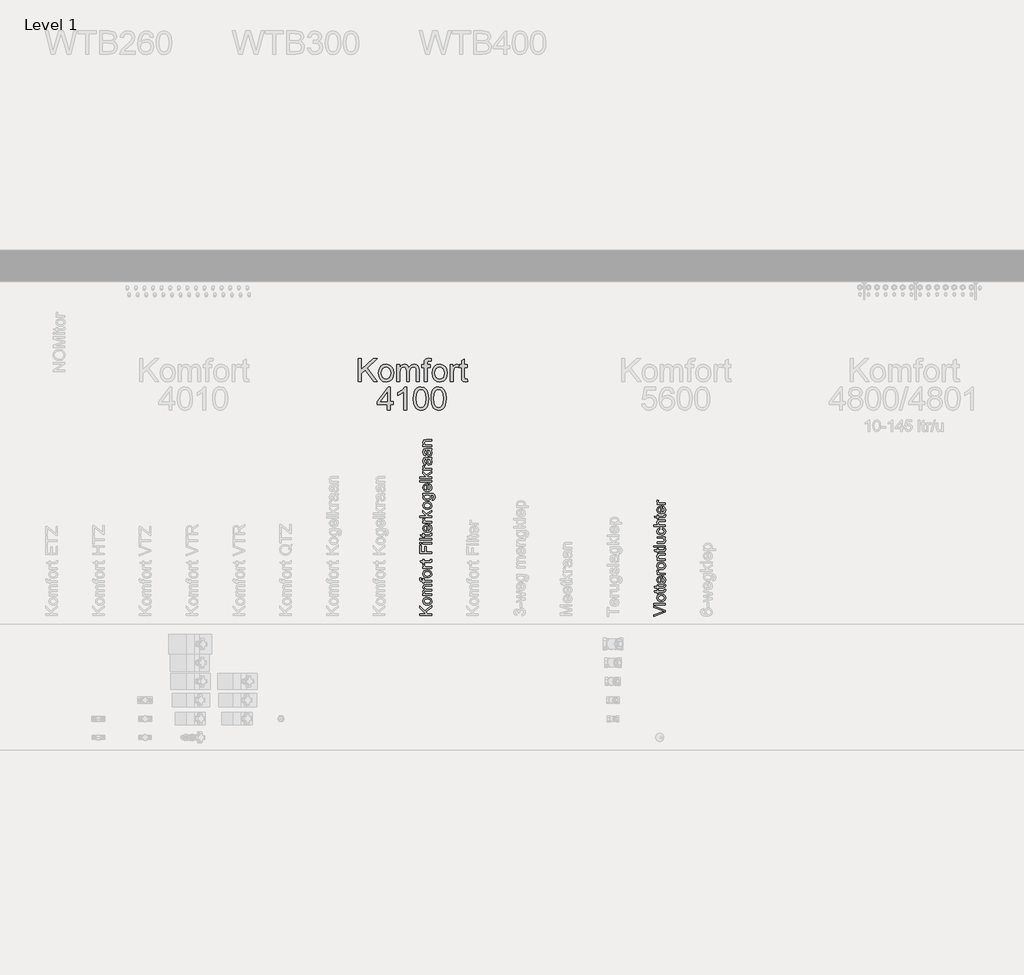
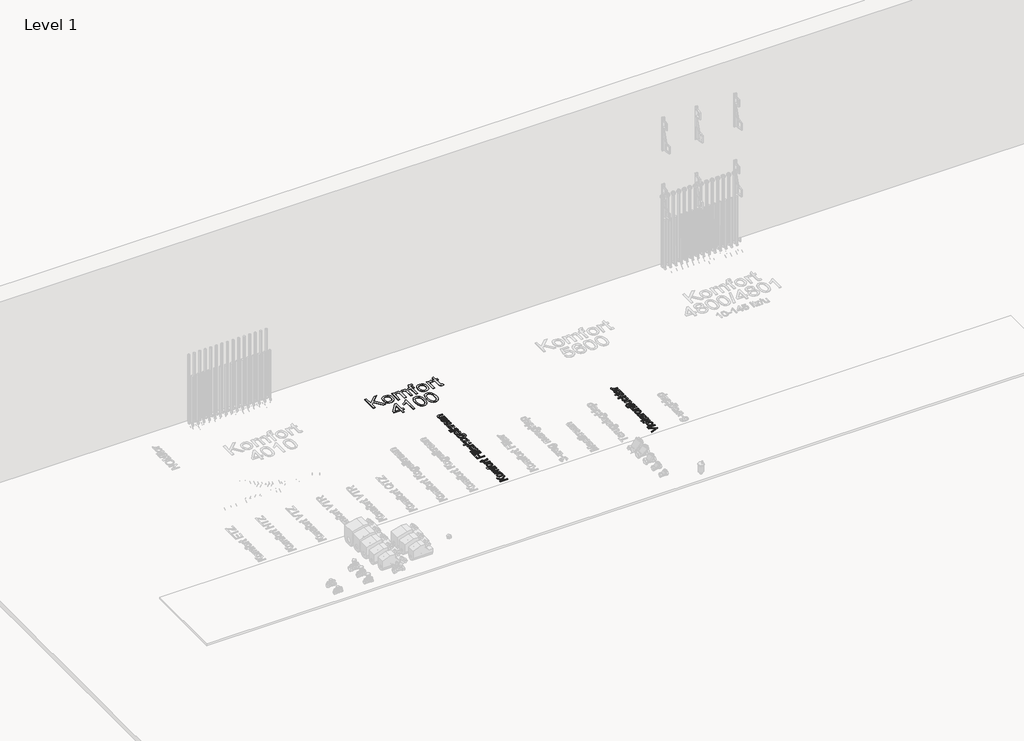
# One storey, part 21 of 34: 3 proxies.
"""IFC4 building model written with IfcOpenShell, lengths in millimetres."""

from ifc_helpers import new_model, si_unit, origin, origin_with_axes, place, context, project, spatial, polyline, outline, extrude, element, save

model = new_model("IFC4")

# Units and contexts
model_context = context("Model", 3, world=origin())
ifc_project = project(units=[si_unit("LENGTHUNIT", "METRE", prefix="MILLI")], contexts=[model_context])

# Site, building, storey
site = spatial("IfcSite", under=ifc_project)
building = spatial("IfcBuilding", under=site)
storey = spatial("IfcBuildingStorey", under=building, Name="Level 1", Elevation=0.0)

# Proxies
placement = place(None, origin())
element("IfcBuildingElementProxy", 1, Name="DN", ObjectType="DN", at=placement, inside=storey, context=model_context, shape_type="SweptSolid", body=[
    extrude(outline(polyline([(-11811.4250614, 5469.6338728), (-11885.2712152, 5440.2468536), (-11885.2712152, 5450.1266613), (-11832.0680902, 5469.7961324), (-11820.0789075, 5473.7805074), (-11832.0680902, 5477.7107959), (-11885.2712152, 5497.4343536), (-11885.2712152, 5507.3141613), (-11811.4250614, 5479.1711324), (-11811.4250614, 5469.6338728)])), origin_with_axes(), (0.0, 0.0, 1.0), 5.0),
    extrude(outline(polyline([(-11811.4250614, 5514.7420459), (-11885.2712152, 5514.7420459), (-11885.2712152, 5523.9728151), (-11811.4250614, 5523.9728151), (-11811.4250614, 5514.7420459)])), origin_with_axes(), (0.0, 0.0, 1.0), 5.0),
    extrude(outline(polyline([(-11838.540446, 5535.5112767), (-11851.6158667, 5537.5079714), (-11860.806071, 5543.4980555), (-11865.3087753, 5550.8988968), (-11866.8096768, 5559.7600747), (-11864.9820025, 5569.4573404), (-11859.4989796, 5577.2029834), (-11850.7933005, 5582.2803572), (-11839.2976575, 5583.9728151), (-11822.8733787, 5580.9800267), (-11813.5795085, 5572.2630795), (-11810.2712152, 5559.7600747), (-11812.0921287, 5549.9456216), (-11817.5548691, 5542.208993), (-11826.4430902, 5537.1857057), (-11838.540446, 5535.5112767)]), holes=[polyline([(-11838.5584748, 5544.7420459), (-11824.2525854, 5549.0148824), (-11819.5019844, 5559.7600747), (-11824.2796287, 5570.4692093), (-11838.8469364, 5574.7420459), (-11852.8283066, 5570.4421661), (-11857.5789075, 5559.7600747), (-11852.8463354, 5549.0148824), (-11838.5584748, 5544.7420459)])]), origin_with_axes(), (0.0, 0.0, 1.0), 5.0),
    extrude(outline(polyline([(-11819.1233787, 5613.9728151), (-11811.1546287, 5615.1266613), (-11810.2712152, 5608.2216132), (-11811.8036671, 5600.4872382), (-11815.8240998, 5596.6290651), (-11826.2988594, 5595.5112767), (-11856.4250614, 5595.5112767), (-11856.4250614, 5588.5881997), (-11865.6558306, 5588.5881997), (-11865.6558306, 5595.5112767), (-11878.8349171, 5595.5112767), (-11884.2615998, 5604.7420459), (-11865.6558306, 5604.7420459), (-11865.6558306, 5613.9728151), (-11856.4250614, 5613.9728151), (-11856.4250614, 5604.7420459), (-11826.5692921, 5604.7420459), (-11821.8096768, 5605.2288247), (-11820.1239796, 5606.8063488), (-11819.5019844, 5609.9523824), (-11819.1233787, 5613.9728151)])), origin_with_axes(), (0.0, 0.0, 1.0), 5.0),
    extrude(outline(polyline([(-11819.1233787, 5642.818969), (-11811.1546287, 5643.9728151), (-11810.2712152, 5637.067767), (-11811.8036671, 5629.333392), (-11815.8240998, 5625.475219), (-11826.2988594, 5624.3574305), (-11856.4250614, 5624.3574305), (-11856.4250614, 5617.4343536), (-11865.6558306, 5617.4343536), (-11865.6558306, 5624.3574305), (-11878.8349171, 5624.3574305), (-11884.2615998, 5633.5881997), (-11865.6558306, 5633.5881997), (-11865.6558306, 5642.818969), (-11856.4250614, 5642.818969), (-11856.4250614, 5633.5881997), (-11826.5692921, 5633.5881997), (-11821.8096768, 5634.0749786), (-11820.1239796, 5635.6525026), (-11819.5019844, 5638.7985363), (-11819.1233787, 5642.818969)])), origin_with_axes(), (0.0, 0.0, 1.0), 5.0),
    extrude(outline(polyline([(-11827.5789075, 5690.0184882), (-11826.4250614, 5699.068969), (-11814.5079941, 5690.6044257), (-11810.2712152, 5674.8381997), (-11812.0988895, 5664.0073704), (-11817.5819123, 5655.6735363), (-11826.364214, 5650.3595339), (-11838.0897248, 5648.5881997), (-11850.2096167, 5650.3775627), (-11859.2736191, 5655.7456517), (-11864.9256623, 5663.9668055), (-11866.8096768, 5674.3153632), (-11864.9301695, 5684.3416553), (-11859.2916479, 5692.3532238), (-11850.2456743, 5697.6063788), (-11838.1438114, 5699.3574305), (-11835.6558306, 5699.303344), (-11835.6558306, 5657.818969), (-11823.6666479, 5663.1284642), (-11819.5019844, 5675.0184882), (-11821.431071, 5684.068969), (-11827.5789075, 5690.0184882)]), holes=[polyline([(-11844.8865998, 5657.818969), (-11844.8865998, 5690.1266613), (-11853.2519844, 5686.4307478), (-11857.5789075, 5674.2793055), (-11854.1263835, 5662.912118), (-11844.8865998, 5657.818969)])]), origin_with_axes(), (0.0, 0.0, 1.0), 5.0),
    extrude(outline(polyline([(-11811.4250614, 5708.5881997), (-11865.6558306, 5708.5881997), (-11865.6558306, 5716.6651228), (-11857.6329941, 5716.6651228), (-11865.024821, 5722.3982959), (-11866.8096768, 5728.1675267), (-11863.9611191, 5737.4343536), (-11855.6858787, 5734.3514209), (-11857.5789075, 5727.8610363), (-11855.7579941, 5722.6416853), (-11850.7099171, 5719.3153632), (-11839.9286671, 5717.818969), (-11811.4250614, 5717.818969), (-11811.4250614, 5708.5881997)])), origin_with_axes(), (0.0, 0.0, 1.0), 5.0),
    extrude(outline(polyline([(-11838.540446, 5740.895892), (-11851.6158667, 5742.8925868), (-11860.806071, 5748.8826709), (-11865.3087753, 5756.2835122), (-11866.8096768, 5765.1446901), (-11864.9820025, 5774.8419557), (-11859.4989796, 5782.5875988), (-11850.7933005, 5787.6649726), (-11839.2976575, 5789.3574305), (-11822.8733787, 5786.364642), (-11813.5795085, 5777.6476949), (-11810.2712152, 5765.1446901), (-11812.0921287, 5755.330237), (-11817.5548691, 5747.5936084), (-11826.4430902, 5742.5703211), (-11838.540446, 5740.895892)]), holes=[polyline([(-11838.5584748, 5750.1266613), (-11824.2525854, 5754.3994978), (-11819.5019844, 5765.1446901), (-11824.2796287, 5775.8538247), (-11838.8469364, 5780.1266613), (-11852.8283066, 5775.8267815), (-11857.5789075, 5765.1446901), (-11852.8463354, 5754.3994978), (-11838.5584748, 5750.1266613)])]), origin_with_axes(), (0.0, 0.0, 1.0), 5.0),
    extrude(outline(polyline([(-11811.4250614, 5799.7420459), (-11865.6558306, 5799.7420459), (-11865.6558306, 5808.9728151), (-11858.0837152, 5808.9728151), (-11864.6281864, 5816.0311084), (-11866.8096768, 5825.6675267), (-11865.0518643, 5834.3844738), (-11860.4364796, 5840.333993), (-11853.6486191, 5843.1014209), (-11844.7243402, 5843.5881997), (-11811.4250614, 5843.5881997), (-11811.4250614, 5834.3574305), (-11843.4803498, 5834.3574305), (-11851.6474171, 5833.2937286), (-11855.9653258, 5829.5347142), (-11857.5789075, 5823.1975747), (-11853.9551094, 5813.1825507), (-11840.1990998, 5808.9728151), (-11811.4250614, 5808.9728151), (-11811.4250614, 5799.7420459)])), origin_with_axes(), (0.0, 0.0, 1.0), 5.0),
    extrude(outline(polyline([(-11819.1233787, 5875.895892), (-11811.1546287, 5877.0497382), (-11810.2712152, 5870.1446901), (-11811.8036671, 5862.4103151), (-11815.8240998, 5858.552142), (-11826.2988594, 5857.4343536), (-11856.4250614, 5857.4343536), (-11856.4250614, 5850.5112767), (-11865.6558306, 5850.5112767), (-11865.6558306, 5857.4343536), (-11878.8349171, 5857.4343536), (-11884.2615998, 5866.6651228), (-11865.6558306, 5866.6651228), (-11865.6558306, 5875.895892), (-11856.4250614, 5875.895892), (-11856.4250614, 5866.6651228), (-11826.5692921, 5866.6651228), (-11821.8096768, 5867.1519017), (-11820.1239796, 5868.7294257), (-11819.5019844, 5871.8754593), (-11819.1233787, 5875.895892)])), origin_with_axes(), (0.0, 0.0, 1.0), 5.0),
    extrude(outline(polyline([(-11811.4250614, 5885.1266613), (-11885.2712152, 5885.1266613), (-11885.2712152, 5894.3574305), (-11811.4250614, 5894.3574305), (-11811.4250614, 5885.1266613)])), origin_with_axes(), (0.0, 0.0, 1.0), 5.0),
    extrude(outline(polyline([(-11811.4250614, 5942.818969), (-11820.7459748, 5942.818969), (-11812.8899051, 5935.5894017), (-11810.2712152, 5926.1603151), (-11812.1101575, 5917.4794257), (-11816.7255421, 5911.4938488), (-11823.5224171, 5908.7444497), (-11832.1041479, 5908.2035843), (-11865.6558306, 5908.2035843), (-11865.6558306, 5917.4343536), (-11836.4490998, 5917.4343536), (-11827.0380421, 5917.9932478), (-11821.5122008, 5921.6440892), (-11819.5019844, 5928.522094), (-11821.5572729, 5936.2294257), (-11827.1552296, 5941.3225747), (-11837.4406864, 5942.818969), (-11865.6558306, 5942.818969), (-11865.6558306, 5952.0497382), (-11811.4250614, 5952.0497382), (-11811.4250614, 5942.818969)])), origin_with_axes(), (0.0, 0.0, 1.0), 5.0),
    extrude(outline(polyline([(-11831.040446, 5999.3574305), (-11829.8865998, 6008.5881997), (-11815.4725373, 6001.178344), (-11810.2712152, 5986.5389209), (-11812.0853679, 5976.7199605), (-11817.5278258, 5969.0419257), (-11826.3597068, 5964.0862466), (-11838.3421287, 5962.4343536), (-11853.6756623, 5965.255868), (-11863.5284268, 5973.8556276), (-11866.8096768, 5986.412719), (-11862.3024652, 6000.4481757), (-11849.5019844, 6007.4343536), (-11848.3481383, 5998.2035843), (-11855.2622008, 5993.9217334), (-11857.5789075, 5986.4848343), (-11853.0176094, 5975.7847142), (-11838.5945325, 5971.6651228), (-11824.0362393, 5975.6945699), (-11819.5019844, 5986.2324305), (-11822.3325133, 5994.9313488), (-11831.040446, 5999.3574305)])), origin_with_axes(), (0.0, 0.0, 1.0), 5.0),
    extrude(outline(polyline([(-11811.4250614, 6016.6651228), (-11885.2712152, 6016.6651228), (-11885.2712152, 6025.895892), (-11858.1197729, 6025.895892), (-11864.6372008, 6033.0939089), (-11866.8096768, 6041.959594), (-11864.4388835, 6052.3261805), (-11857.8853979, 6058.6182478), (-11845.7519844, 6060.5112767), (-11811.4250614, 6060.5112767), (-11811.4250614, 6051.2805074), (-11844.7964556, 6051.2805074), (-11854.5320325, 6048.3418055), (-11857.5789075, 6040.0124786), (-11855.5236191, 6032.4493776), (-11849.9527056, 6027.4013007), (-11840.2351575, 6025.895892), (-11811.4250614, 6025.895892), (-11811.4250614, 6016.6651228)])), origin_with_axes(), (0.0, 0.0, 1.0), 5.0),
    extrude(outline(polyline([(-11819.1233787, 6092.818969), (-11811.1546287, 6093.9728151), (-11810.2712152, 6087.067767), (-11811.8036671, 6079.333392), (-11815.8240998, 6075.475219), (-11826.2988594, 6074.3574305), (-11856.4250614, 6074.3574305), (-11856.4250614, 6067.4343536), (-11865.6558306, 6067.4343536), (-11865.6558306, 6074.3574305), (-11878.8349171, 6074.3574305), (-11884.2615998, 6083.5881997), (-11865.6558306, 6083.5881997), (-11865.6558306, 6092.818969), (-11856.4250614, 6092.818969), (-11856.4250614, 6083.5881997), (-11826.5692921, 6083.5881997), (-11821.8096768, 6084.0749786), (-11820.1239796, 6085.6525026), (-11819.5019844, 6088.7985363), (-11819.1233787, 6092.818969)])), origin_with_axes(), (0.0, 0.0, 1.0), 5.0),
    extrude(outline(polyline([(-11827.5789075, 6140.0184882), (-11826.4250614, 6149.068969), (-11814.5079941, 6140.6044257), (-11810.2712152, 6124.8381997), (-11812.0988895, 6114.0073704), (-11817.5819123, 6105.6735363), (-11826.364214, 6100.3595339), (-11838.0897248, 6098.5881997), (-11850.2096167, 6100.3775627), (-11859.2736191, 6105.7456517), (-11864.9256623, 6113.9668055), (-11866.8096768, 6124.3153632), (-11864.9301695, 6134.3416553), (-11859.2916479, 6142.3532238), (-11850.2456743, 6147.6063788), (-11838.1438114, 6149.3574305), (-11835.6558306, 6149.303344), (-11835.6558306, 6107.818969), (-11823.6666479, 6113.1284642), (-11819.5019844, 6125.0184882), (-11821.431071, 6134.068969), (-11827.5789075, 6140.0184882)]), holes=[polyline([(-11844.8865998, 6107.818969), (-11844.8865998, 6140.1266613), (-11853.2519844, 6136.4307478), (-11857.5789075, 6124.2793055), (-11854.1263835, 6112.912118), (-11844.8865998, 6107.818969)])]), origin_with_axes(), (0.0, 0.0, 1.0), 5.0),
    extrude(outline(polyline([(-11811.4250614, 6158.5881997), (-11865.6558306, 6158.5881997), (-11865.6558306, 6166.6651228), (-11857.6329941, 6166.6651228), (-11865.024821, 6172.3982959), (-11866.8096768, 6178.1675267), (-11863.9611191, 6187.4343536), (-11855.6858787, 6184.3514209), (-11857.5789075, 6177.8610363), (-11855.7579941, 6172.6416853), (-11850.7099171, 6169.3153632), (-11839.9286671, 6167.818969), (-11811.4250614, 6167.818969), (-11811.4250614, 6158.5881997)])), origin_with_axes(), (0.0, 0.0, 1.0), 5.0),
])
element("IfcBuildingElementProxy", 2, Name="DN", ObjectType="DN", at=placement, inside=storey, context=model_context, shape_type="SweptSolid", body=[
    extrude(outline(polyline([(-13311.4250614, 5447.9826026), (-13386.767294, 5447.9826026), (-13386.767294, 5457.4003817), (-13349.887124, 5457.4003817), (-13386.767294, 5496.0279911), (-13386.767294, 5509.1981666), (-13355.79163, 5476.7693687), (-13311.4250614, 5510.375389), (-13311.4250614, 5498.8606825), (-13349.4272715, 5470.0923105), (-13337.3239538, 5457.4003817), (-13311.4250614, 5457.4003817), (-13311.4250614, 5447.9826026)])), origin_with_axes(), (0.0, 0.0, 1.0), 5.0),
    extrude(outline(polyline([(-13339.0897874, 5513.9070561), (-13352.4301083, 5515.9442027), (-13361.8065006, 5522.0556423), (-13366.400427, 5529.6064203), (-13367.9317358, 5538.6471203), (-13366.067034, 5548.5408467), (-13360.4729284, 5556.4434118), (-13351.5908775, 5561.6236502), (-13339.8623396, 5563.3503963), (-13323.1053147, 5560.2969757), (-13313.6231563, 5551.4034285), (-13310.247839, 5538.6471203), (-13312.1056431, 5528.6338322), (-13317.6790553, 5520.7404642), (-13326.7473465, 5515.6154081), (-13339.0897874, 5513.9070561)]), holes=[polyline([(-13339.1081815, 5523.3248352), (-13324.5124633, 5527.6842368), (-13319.6656181, 5538.6471203), (-13324.5400545, 5549.5732155), (-13339.4024871, 5553.9326172), (-13353.6671115, 5549.5456244), (-13358.5139567, 5538.6471203), (-13353.6855056, 5527.6842368), (-13339.1081815, 5523.3248352)])]), origin_with_axes(), (0.0, 0.0, 1.0), 5.0),
    extrude(outline(polyline([(-13311.4250614, 5573.9453977), (-13366.7545134, 5573.9453977), (-13366.7545134, 5583.3631768), (-13357.6494341, 5583.3631768), (-13365.1082415, 5589.8378999), (-13367.9317358, 5599.0533439), (-13365.0530592, 5608.4895171), (-13356.9872465, 5613.6766532), (-13365.1956135, 5621.0250961), (-13367.9317358, 5630.3049194), (-13363.3791961, 5642.6197692), (-13349.3536951, 5646.9331856), (-13311.4250614, 5646.9331856), (-13311.4250614, 5637.5154065), (-13345.3069931, 5637.5154065), (-13353.1704708, 5636.6416868), (-13357.0424288, 5633.4779016), (-13358.5139567, 5628.0976274), (-13354.7431663, 5618.8361982), (-13342.6582428, 5615.1481812), (-13311.4250614, 5615.1481812), (-13311.4250614, 5605.7304021), (-13346.3554568, 5605.7304021), (-13355.4789303, 5603.5507013), (-13358.5139567, 5596.4045935), (-13356.4906058, 5589.4332297), (-13350.5677057, 5584.7979166), (-13339.3289107, 5583.3631768), (-13311.4250614, 5583.3631768), (-13311.4250614, 5573.9453977)])), origin_with_axes(), (0.0, 0.0, 1.0), 5.0),
    extrude(outline(polyline([(-13311.4250614, 5663.414299), (-13357.3367344, 5663.414299), (-13357.3367344, 5655.1737423), (-13366.7545134, 5655.1737423), (-13366.7545134, 5663.414299), (-13372.3279257, 5663.414299), (-13380.1822063, 5664.4075803), (-13385.7924067, 5669.2268345), (-13387.9445164, 5678.71819), (-13386.9144468, 5687.3082345), (-13378.0852789, 5685.9286771), (-13378.5267373, 5680.5024176), (-13376.9632388, 5674.5703205), (-13371.1323092, 5672.832078), (-13366.7545134, 5672.832078), (-13366.7545134, 5683.4270795), (-13357.3367344, 5683.4270795), (-13357.3367344, 5672.832078), (-13311.4250614, 5672.832078), (-13311.4250614, 5663.414299)])), origin_with_axes(), (0.0, 0.0, 1.0), 5.0),
    extrude(outline(polyline([(-13339.0897874, 5689.3131914), (-13352.4301083, 5691.350338), (-13361.8065006, 5697.4617776), (-13366.400427, 5705.0125556), (-13367.9317358, 5714.0532556), (-13366.067034, 5723.946982), (-13360.4729284, 5731.8495471), (-13351.5908775, 5737.0297855), (-13339.8623396, 5738.7565316), (-13323.1053147, 5735.703111), (-13313.6231563, 5726.8095638), (-13310.247839, 5714.0532556), (-13312.1056431, 5704.0399675), (-13317.6790553, 5696.1465995), (-13326.7473465, 5691.0215434), (-13339.0897874, 5689.3131914)]), holes=[polyline([(-13339.1081815, 5698.7309705), (-13324.5124633, 5703.0903721), (-13319.6656181, 5714.0532556), (-13324.5400545, 5724.9793508), (-13339.4024871, 5729.3387525), (-13353.6671115, 5724.9517597), (-13358.5139567, 5714.0532556), (-13353.6855056, 5703.0903721), (-13339.1081815, 5698.7309705)])]), origin_with_axes(), (0.0, 0.0, 1.0), 5.0),
    extrude(outline(polyline([(-13311.4250614, 5749.351533), (-13366.7545134, 5749.351533), (-13366.7545134, 5757.5920897), (-13358.569139, 5757.5920897), (-13366.1107199, 5763.4414134), (-13367.9317358, 5769.3275254), (-13365.0254681, 5778.7820926), (-13356.5825763, 5775.6367016), (-13358.5139567, 5769.0148257), (-13356.6561527, 5763.6897338), (-13351.5058047, 5760.2960224), (-13340.5061331, 5758.7693121), (-13311.4250614, 5758.7693121), (-13311.4250614, 5749.351533)])), origin_with_axes(), (0.0, 0.0, 1.0), 5.0),
    extrude(outline(polyline([(-13319.279342, 5804.6809851), (-13311.1491499, 5805.8582075), (-13310.247839, 5798.8132673), (-13311.8113375, 5790.9221985), (-13315.9132217, 5786.9858611), (-13326.6001937, 5785.8454269), (-13357.3367344, 5785.8454269), (-13357.3367344, 5778.7820926), (-13366.7545134, 5778.7820926), (-13366.7545134, 5785.8454269), (-13380.2006004, 5785.8454269), (-13385.7372244, 5795.263206), (-13366.7545134, 5795.263206), (-13366.7545134, 5804.6809851), (-13357.3367344, 5804.6809851), (-13357.3367344, 5795.263206), (-13326.8761052, 5795.263206), (-13322.0200628, 5795.7598467), (-13320.3002145, 5797.3693304), (-13319.6656181, 5800.5791009), (-13319.279342, 5804.6809851)])), origin_with_axes(), (0.0, 0.0, 1.0), 5.0),
    extrude(outline(polyline([(-13311.4250614, 5844.7065462), (-13386.767294, 5844.7065462), (-13386.767294, 5895.3271087), (-13377.3495149, 5895.3271087), (-13377.3495149, 5854.1243253), (-13354.9822896, 5854.1243253), (-13354.9822896, 5889.4409968), (-13345.5645105, 5889.4409968), (-13345.5645105, 5854.1243253), (-13311.4250614, 5854.1243253), (-13311.4250614, 5844.7065462)])), origin_with_axes(), (0.0, 0.0, 1.0), 5.0),
    extrude(outline(polyline([(-13311.4250614, 5907.0993326), (-13366.7545134, 5907.0993326), (-13366.7545134, 5916.5171116), (-13311.4250614, 5916.5171116), (-13311.4250614, 5907.0993326)])), origin_with_axes(), (0.0, 0.0, 1.0), 5.0),
    extrude(outline(polyline([(-13377.3495149, 5907.0993326), (-13386.767294, 5907.0993326), (-13386.767294, 5916.5171116), (-13377.3495149, 5916.5171116), (-13377.3495149, 5907.0993326)])), origin_with_axes(), (0.0, 0.0, 1.0), 5.0),
    extrude(outline(polyline([(-13311.4250614, 5930.6437803), (-13386.767294, 5930.6437803), (-13386.767294, 5940.0615593), (-13311.4250614, 5940.0615593), (-13311.4250614, 5930.6437803)])), origin_with_axes(), (0.0, 0.0, 1.0), 5.0),
    extrude(outline(polyline([(-13319.279342, 5974.2010085), (-13311.1491499, 5975.3782309), (-13310.247839, 5968.3332907), (-13311.8113375, 5960.4422219), (-13315.9132217, 5956.5058845), (-13326.6001937, 5955.3654503), (-13357.3367344, 5955.3654503), (-13357.3367344, 5948.302116), (-13366.7545134, 5948.302116), (-13366.7545134, 5955.3654503), (-13380.2006004, 5955.3654503), (-13385.7372244, 5964.7832294), (-13366.7545134, 5964.7832294), (-13366.7545134, 5974.2010085), (-13357.3367344, 5974.2010085), (-13357.3367344, 5964.7832294), (-13326.8761052, 5964.7832294), (-13322.0200628, 5965.2798701), (-13320.3002145, 5966.8893538), (-13319.6656181, 5970.0991242), (-13319.279342, 5974.2010085)])), origin_with_axes(), (0.0, 0.0, 1.0), 5.0),
    extrude(outline(polyline([(-13327.9061748, 6022.3567616), (-13326.7289524, 6031.5905997), (-13314.5704524, 6022.9545699), (-13310.247839, 6006.8689297), (-13312.1125408, 5995.8186742), (-13317.7066464, 5987.3160016), (-13326.6668723, 5981.8943407), (-13338.6299349, 5980.0871204), (-13350.9953685, 5981.9127348), (-13360.2430021, 5987.389578), (-13366.0095524, 5995.7772875), (-13367.9317358, 6006.3355008), (-13366.0141509, 6016.5649195), (-13360.2613962, 6024.7387976), (-13351.0321567, 6030.0983784), (-13338.6851172, 6031.8849053), (-13336.1467314, 6031.829723), (-13336.1467314, 5989.5048995), (-13323.9146551, 5994.9219619), (-13319.6656181, 6007.0528706), (-13321.6337867, 6016.2867087), (-13327.9061748, 6022.3567616)]), holes=[polyline([(-13345.5645105, 5989.5048995), (-13345.5645105, 6022.4671262), (-13354.0993728, 6018.6963358), (-13358.5139567, 6006.2987126), (-13354.9914866, 5994.7012327), (-13345.5645105, 5989.5048995)])]), origin_with_axes(), (0.0, 0.0, 1.0), 5.0),
    extrude(outline(polyline([(-13311.4250614, 6041.3026844), (-13366.7545134, 6041.3026844), (-13366.7545134, 6049.5432411), (-13358.569139, 6049.5432411), (-13366.1107199, 6055.3925648), (-13367.9317358, 6061.2786767), (-13365.0254681, 6070.733244), (-13356.5825763, 6067.587853), (-13358.5139567, 6060.965977), (-13356.6561527, 6055.6408852), (-13351.5058047, 6052.2471738), (-13340.5061331, 6050.7204635), (-13311.4250614, 6050.7204635), (-13311.4250614, 6041.3026844)])), origin_with_axes(), (0.0, 0.0, 1.0), 5.0),
    extrude(outline(polyline([(-13311.4250614, 6076.6193559), (-13386.767294, 6076.6193559), (-13386.767294, 6086.037135), (-13346.2818804, 6086.037135), (-13366.7545134, 6107.1535615), (-13366.7545134, 6120.1765842), (-13346.024363, 6098.8026402), (-13311.4250614, 6121.3538065), (-13311.4250614, 6110.3541349), (-13339.4760635, 6092.0520056), (-13333.6451339, 6086.037135), (-13311.4250614, 6086.037135), (-13311.4250614, 6076.6193559)])), origin_with_axes(), (0.0, 0.0, 1.0), 5.0),
    extrude(outline(polyline([(-13339.0897874, 6127.2399185), (-13352.4301083, 6129.277065), (-13361.8065006, 6135.3885047), (-13366.400427, 6142.9392826), (-13367.9317358, 6151.9799826), (-13366.067034, 6161.8737091), (-13360.4729284, 6169.7762742), (-13351.5908775, 6174.9565125), (-13339.8623396, 6176.6832586), (-13323.1053147, 6173.6298381), (-13313.6231563, 6164.7362908), (-13310.247839, 6151.9799826), (-13312.1056431, 6141.9666946), (-13317.6790553, 6134.0733265), (-13326.7473465, 6128.9482705), (-13339.0897874, 6127.2399185)]), holes=[polyline([(-13339.1081815, 6136.6576975), (-13324.5124633, 6141.0170992), (-13319.6656181, 6151.9799826), (-13324.5400545, 6162.9060779), (-13339.4024871, 6167.2654795), (-13353.6671115, 6162.8784868), (-13358.5139567, 6151.9799826), (-13353.6855056, 6141.0170992), (-13339.1081815, 6136.6576975)])]), origin_with_axes(), (0.0, 0.0, 1.0), 5.0),
    extrude(outline(polyline([(-13306.7161718, 6184.9238153), (-13305.5389494, 6194.3415944), (-13300.5725425, 6197.395015), (-13298.4756151, 6206.5368825), (-13300.848454, 6216.1753908), (-13307.5071181, 6220.7739157), (-13318.4883957, 6221.4177092), (-13313.1908949, 6214.7866363), (-13311.4250614, 6206.7024294), (-13313.480602, 6196.992644), (-13319.647224, 6189.7522665), (-13328.687924, 6185.2480113), (-13339.3656989, 6183.7465929), (-13353.9614171, 6186.4413285), (-13364.2897041, 6194.2404268), (-13367.9317358, 6206.2425769), (-13365.8715967, 6214.644082), (-13359.6911791, 6221.4177092), (-13366.7545134, 6221.4177092), (-13366.7545134, 6230.8354883), (-13318.9850364, 6230.8354883), (-13300.6921042, 6228.2603143), (-13292.184833, 6220.1025311), (-13289.0578361, 6206.3529415), (-13293.463223, 6190.6903656), (-13298.9791536, 6186.2642853), (-13306.7161718, 6184.9238153)]), holes=[polyline([(-13340.0094924, 6193.164372), (-13325.4321683, 6197.1834828), (-13320.8428404, 6207.2726465), (-13325.4045772, 6217.3434161), (-13339.7335809, 6221.4177092), (-13353.7774761, 6217.2238545), (-13358.5139567, 6207.1254937), (-13353.8510525, 6197.2386651), (-13340.0094924, 6193.164372)])]), origin_with_axes(), (0.0, 0.0, 1.0), 5.0),
    extrude(outline(polyline([(-13327.9061748, 6283.700131), (-13326.7289524, 6292.9339691), (-13314.5704524, 6284.2979393), (-13310.247839, 6268.212299), (-13312.1125408, 6257.1620436), (-13317.7066464, 6248.659371), (-13326.6668723, 6243.2377101), (-13338.6299349, 6241.4304898), (-13350.9953685, 6243.2561042), (-13360.2430021, 6248.7329474), (-13366.0095524, 6257.1206569), (-13367.9317358, 6267.6788701), (-13366.0141509, 6277.9082889), (-13360.2613962, 6286.0821669), (-13351.0321567, 6291.4417478), (-13338.6851172, 6293.2282747), (-13336.1467314, 6293.1730924), (-13336.1467314, 6250.8482689), (-13323.9146551, 6256.2653312), (-13319.6656181, 6268.39624), (-13321.6337867, 6277.6300781), (-13327.9061748, 6283.700131)]), holes=[polyline([(-13345.5645105, 6250.8482689), (-13345.5645105, 6283.8104956), (-13354.0993728, 6280.0397052), (-13358.5139567, 6267.6420819), (-13354.9914866, 6256.044602), (-13345.5645105, 6250.8482689)])]), origin_with_axes(), (0.0, 0.0, 1.0), 5.0),
    extrude(outline(polyline([(-13311.4250614, 6302.6460538), (-13386.767294, 6302.6460538), (-13386.767294, 6312.0638328), (-13311.4250614, 6312.0638328), (-13311.4250614, 6302.6460538)])), origin_with_axes(), (0.0, 0.0, 1.0), 5.0),
    extrude(outline(polyline([(-13311.4250614, 6326.1905015), (-13386.767294, 6326.1905015), (-13386.767294, 6335.6082805), (-13346.2818804, 6335.6082805), (-13366.7545134, 6356.7247071), (-13366.7545134, 6369.7477297), (-13346.024363, 6348.3737858), (-13311.4250614, 6370.9249521), (-13311.4250614, 6359.9252804), (-13339.4760635, 6341.6231512), (-13333.6451339, 6335.6082805), (-13311.4250614, 6335.6082805), (-13311.4250614, 6326.1905015)])), origin_with_axes(), (0.0, 0.0, 1.0), 5.0),
    extrude(outline(polyline([(-13311.4250614, 6379.1655088), (-13366.7545134, 6379.1655088), (-13366.7545134, 6387.4060655), (-13358.569139, 6387.4060655), (-13366.1107199, 6393.2553892), (-13367.9317358, 6399.1415011), (-13365.0254681, 6408.5960684), (-13356.5825763, 6405.4506773), (-13358.5139567, 6398.8288014), (-13356.6561527, 6393.5037095), (-13351.5058047, 6390.1099981), (-13340.5061331, 6388.5832878), (-13311.4250614, 6388.5832878), (-13311.4250614, 6379.1655088)])), origin_with_axes(), (0.0, 0.0, 1.0), 5.0),
    extrude(outline(polyline([(-13318.4883957, 6449.7988518), (-13312.1056431, 6440.6661813), (-13310.247839, 6430.5770176), (-13314.7176052, 6416.9010044), (-13326.1403412, 6412.1277355), (-13333.5899516, 6413.9303573), (-13338.9978169, 6418.666838), (-13342.0880257, 6425.2611228), (-13343.5043713, 6433.409709), (-13346.7417329, 6449.7436695), (-13348.8386603, 6449.7988518), (-13355.79163, 6447.2052838), (-13358.5139567, 6436.7942233), (-13356.7021379, 6427.2660796), (-13350.2734001, 6422.722737), (-13351.4506224, 6413.3049579), (-13360.6476723, 6417.379251), (-13366.0371436, 6425.5830195), (-13367.9317358, 6438.0082339), (-13366.2578727, 6449.4217728), (-13362.054821, 6455.8689048), (-13355.6628713, 6458.7567784), (-13347.4223146, 6459.2166309), (-13335.705273, 6459.2166309), (-13319.3437213, 6459.6948775), (-13311.4250614, 6461.5710757), (-13311.4250614, 6452.1532966), (-13318.4883957, 6449.7988518)]), holes=[polyline([(-13337.3239538, 6449.7988518), (-13334.4360802, 6434.6053254), (-13332.9093699, 6426.5027245), (-13330.4261664, 6422.8331016), (-13326.8025288, 6421.5455146), (-13321.7073631, 6424.3506148), (-13319.6656181, 6432.5819745), (-13321.9188953, 6442.1101181), (-13327.3727459, 6448.2537475), (-13334.6568094, 6449.7436695), (-13337.3239538, 6449.7988518)])]), origin_with_axes(), (0.0, 0.0, 1.0), 5.0),
    extrude(outline(polyline([(-13318.4883957, 6507.4827487), (-13312.1056431, 6498.3500782), (-13310.247839, 6488.2609144), (-13314.7176052, 6474.5849013), (-13326.1403412, 6469.8116324), (-13333.5899516, 6471.6142542), (-13338.9978169, 6476.3507348), (-13342.0880257, 6482.9450196), (-13343.5043713, 6491.0936058), (-13346.7417329, 6507.4275664), (-13348.8386603, 6507.4827487), (-13355.79163, 6504.8891806), (-13358.5139567, 6494.4781202), (-13356.7021379, 6484.9499765), (-13350.2734001, 6480.4066338), (-13351.4506224, 6470.9888548), (-13360.6476723, 6475.0631479), (-13366.0371436, 6483.2669164), (-13367.9317358, 6495.6921307), (-13366.2578727, 6507.1056696), (-13362.054821, 6513.5528016), (-13355.6628713, 6516.4406753), (-13347.4223146, 6516.9005278), (-13335.705273, 6516.9005278), (-13319.3437213, 6517.3787744), (-13311.4250614, 6519.2549725), (-13311.4250614, 6509.8371935), (-13318.4883957, 6507.4827487)]), holes=[polyline([(-13337.3239538, 6507.4827487), (-13334.4360802, 6492.2892223), (-13332.9093699, 6484.1866213), (-13330.4261664, 6480.5169984), (-13326.8025288, 6479.2294115), (-13321.7073631, 6482.0345117), (-13319.6656181, 6490.2658713), (-13321.9188953, 6499.794015), (-13327.3727459, 6505.9376443), (-13334.6568094, 6507.4275664), (-13337.3239538, 6507.4827487)])]), origin_with_axes(), (0.0, 0.0, 1.0), 5.0),
    extrude(outline(polyline([(-13311.4250614, 6529.849974), (-13366.7545134, 6529.849974), (-13366.7545134, 6539.2677531), (-13359.0289915, 6539.2677531), (-13365.7060498, 6546.4690431), (-13367.9317358, 6556.3006894), (-13366.1383111, 6565.1942367), (-13361.4294216, 6571.2642896), (-13354.504043, 6574.0877839), (-13345.3989636, 6574.5844246), (-13311.4250614, 6574.5844246), (-13311.4250614, 6565.1666455), (-13344.1297707, 6565.1666455), (-13352.4622979, 6564.0813936), (-13356.8676848, 6560.2462238), (-13358.5139567, 6553.7806978), (-13354.8167427, 6543.5627754), (-13340.7820446, 6539.2677531), (-13311.4250614, 6539.2677531), (-13311.4250614, 6529.849974)])), origin_with_axes(), (0.0, 0.0, 1.0), 5.0),
])
element("IfcBuildingElementProxy", 3, Name="type", ObjectType="type", at=placement, inside=storey, context=model_context, shape_type="SweptSolid", body=[
    extrude(outline(polyline([(-13781.4310265, 6948.0579707), (-13781.4310265, 7095.7502784), (-13762.969488, 7095.7502784), (-13762.969488, 7023.4546053), (-13687.2483342, 7095.7502784), (-13661.4310265, 7095.7502784), (-13725.000738, 7035.0291245), (-13659.1233342, 6948.0579707), (-13681.6954495, 6948.0579707), (-13738.0896803, 7022.553163), (-13762.969488, 6998.8272014), (-13762.969488, 6948.0579707), (-13781.4310265, 6948.0579707)])), origin_with_axes(), (0.0, 0.0, 1.0), 5.0),
    extrude(outline(polyline([(-13652.2002572, 7002.2887399), (-13648.2068678, 7028.4395812), (-13636.2266995, 7046.8199899), (-13621.4250168, 7055.8253985), (-13603.7026611, 7058.8272014), (-13584.3081298, 7055.1718529), (-13568.8168438, 7044.2058072), (-13558.6620962, 7026.794449), (-13555.2771803, 7003.803163), (-13556.7735745, 6985.1523216), (-13561.2627572, 6970.9546053), (-13568.6140192, 6960.3220933), (-13578.6966515, 6952.3668649), (-13590.6723125, 6947.404425), (-13603.7026611, 6945.7502784), (-13623.3315673, 6949.3921053), (-13638.8048245, 6960.317586), (-13648.8513991, 6978.0940284), (-13652.2002572, 7002.2887399)]), holes=[polyline([(-13633.7387188, 7002.3247976), (-13631.6023005, 6985.6165644), (-13625.1930457, 6973.7130187), (-13615.547613, 6966.5871173), (-13603.7026611, 6964.2118168), (-13591.9117957, 6966.6006389), (-13582.2843918, 6973.7671053), (-13575.875137, 6985.8284034), (-13573.7387188, 7002.9017207), (-13575.8886587, 7019.123175), (-13582.3384784, 7030.864461), (-13591.9794039, 7037.9903625), (-13603.7026611, 7040.365663), (-13615.547613, 7037.9993769), (-13625.1930457, 7030.9005187), (-13631.6023005, 7019.0240163), (-13633.7387188, 7002.3247976)])]), origin_with_axes(), (0.0, 0.0, 1.0), 5.0),
    extrude(outline(polyline([(-13534.5079495, 6948.0579707), (-13534.5079495, 7056.5195091), (-13516.0464111, 7056.5195091), (-13516.0464111, 7038.6709514), (-13503.3541034, 7053.2923457), (-13485.2891995, 7058.8272014), (-13475.0217717, 7057.4164442), (-13466.7916034, 7053.1841726), (-13456.6233342, 7037.3728745), (-13442.2182861, 7053.4636197), (-13424.0271803, 7058.8272014), (-13410.149476, 7056.5961317), (-13399.8865553, 7049.9029226), (-13393.5449087, 7038.5672856), (-13391.4310265, 7022.4089322), (-13391.4310265, 6948.0579707), (-13409.8925649, 6948.0579707), (-13409.8925649, 7014.4762399), (-13411.6053053, 7029.8909034), (-13417.8072284, 7037.4810476), (-13428.3541034, 7040.365663), (-13438.3556058, 7038.5177062), (-13446.5091515, 7032.973836), (-13451.9313269, 7023.3554466), (-13453.7387188, 7009.2839322), (-13453.7387188, 6948.0579707), (-13472.2002572, 6948.0579707), (-13472.2002572, 7016.5315284), (-13476.4730938, 7034.4161437), (-13482.1116154, 7038.8782832), (-13490.4815072, 7040.365663), (-13504.1473726, 7036.3993168), (-13513.2339111, 7024.7887399), (-13516.0464111, 7002.7574899), (-13516.0464111, 6948.0579707), (-13534.5079495, 6948.0579707)])), origin_with_axes(), (0.0, 0.0, 1.0), 5.0),
    extrude(outline(polyline([(-13359.1233342, 6948.0579707), (-13359.1233342, 7038.0579707), (-13375.2771803, 7038.0579707), (-13375.2771803, 7056.5195091), (-13359.1233342, 7056.5195091), (-13359.1233342, 7067.4449899), (-13357.1762188, 7082.8416245), (-13347.7291034, 7093.8392207), (-13329.1233342, 7098.0579707), (-13312.2843918, 7096.0387399), (-13314.9887188, 7078.7310476), (-13325.625738, 7079.5964322), (-13337.2543438, 7076.5315284), (-13340.6617957, 7065.1012399), (-13340.6617957, 7056.5195091), (-13319.8925649, 7056.5195091), (-13319.8925649, 7038.0579707), (-13340.6617957, 7038.0579707), (-13340.6617957, 6948.0579707), (-13359.1233342, 6948.0579707)])), origin_with_axes(), (0.0, 0.0, 1.0), 5.0),
    extrude(outline(polyline([(-13308.3541034, 7002.2887399), (-13304.360714, 7028.4395812), (-13292.3805457, 7046.8199899), (-13277.578863, 7055.8253985), (-13259.8565072, 7058.8272014), (-13240.461976, 7055.1718529), (-13224.9706899, 7044.2058072), (-13214.8159423, 7026.794449), (-13211.4310265, 7003.803163), (-13212.9274207, 6985.1523216), (-13217.4166034, 6970.9546053), (-13224.7678654, 6960.3220933), (-13234.8504976, 6952.3668649), (-13246.8261587, 6947.404425), (-13259.8565072, 6945.7502784), (-13279.4854135, 6949.3921053), (-13294.9586707, 6960.317586), (-13305.0052452, 6978.0940284), (-13308.3541034, 7002.2887399)]), holes=[polyline([(-13289.8925649, 7002.3247976), (-13287.7561467, 6985.6165644), (-13281.3468918, 6973.7130187), (-13271.7014592, 6966.5871173), (-13259.8565072, 6964.2118168), (-13248.0656418, 6966.6006389), (-13238.438238, 6973.7671053), (-13232.0289832, 6985.8284034), (-13229.8925649, 7002.9017207), (-13232.0425048, 7019.123175), (-13238.4923245, 7030.864461), (-13248.13325, 7037.9903625), (-13259.8565072, 7040.365663), (-13271.7014592, 7037.9993769), (-13281.3468918, 7030.9005187), (-13287.7561467, 7019.0240163), (-13289.8925649, 7002.3247976)])]), origin_with_axes(), (0.0, 0.0, 1.0), 5.0),
    extrude(outline(polyline([(-13190.6617957, 6948.0579707), (-13190.6617957, 7056.5195091), (-13174.5079495, 7056.5195091), (-13174.5079495, 7040.473836), (-13163.0416034, 7055.2574899), (-13151.5031418, 7058.8272014), (-13132.969488, 7053.130086), (-13139.1353534, 7036.5796053), (-13152.1161226, 7040.365663), (-13162.5548245, 7036.723836), (-13169.2074688, 7026.6276822), (-13172.2002572, 7005.0651822), (-13172.2002572, 6948.0579707), (-13190.6617957, 6948.0579707)])), origin_with_axes(), (0.0, 0.0, 1.0), 5.0),
    extrude(outline(polyline([(-13082.2002572, 6963.4546053), (-13079.8925649, 6947.5171053), (-13093.7026611, 6945.7502784), (-13109.1714111, 6948.8151822), (-13116.8877572, 6956.8560476), (-13119.1233342, 6977.8055668), (-13119.1233342, 7038.0579707), (-13132.969488, 7038.0579707), (-13132.969488, 7056.5195091), (-13119.1233342, 7056.5195091), (-13119.1233342, 7082.8776822), (-13100.6617957, 7093.7310476), (-13100.6617957, 7056.5195091), (-13082.2002572, 7056.5195091), (-13082.2002572, 7038.0579707), (-13100.6617957, 7038.0579707), (-13100.6617957, 6978.3464322), (-13099.688238, 6968.8272014), (-13096.5331899, 6965.4558072), (-13090.2411226, 6964.2118168), (-13082.2002572, 6963.4546053)])), origin_with_axes(), (0.0, 0.0, 1.0), 5.0),
    extrude(outline(polyline([(-13594.5079495, 6765.7502784), (-13594.5079495, 6800.365663), (-13661.4310265, 6800.365663), (-13661.4310265, 6818.8272014), (-13589.8925649, 6911.1348937), (-13576.0464111, 6911.1348937), (-13576.0464111, 6818.8272014), (-13557.5848726, 6818.8272014), (-13557.5848726, 6800.365663), (-13576.0464111, 6800.365663), (-13576.0464111, 6765.7502784), (-13594.5079495, 6765.7502784)]), holes=[polyline([(-13594.5079495, 6818.8272014), (-13594.5079495, 6875.8704707), (-13638.7146803, 6818.8272014), (-13594.5079495, 6818.8272014)])]), origin_with_axes(), (0.0, 0.0, 1.0), 5.0),
    extrude(outline(polyline([(-13472.2002572, 6765.7502784), (-13490.6617957, 6765.7502784), (-13490.6617957, 6880.8464322), (-13508.1497765, 6868.3884995), (-13527.5848726, 6859.067586), (-13527.5848726, 6876.5195091), (-13500.5235745, 6893.7911437), (-13484.0992957, 6913.442586), (-13472.2002572, 6913.442586), (-13472.2002572, 6765.7502784)])), origin_with_axes(), (0.0, 0.0, 1.0), 5.0),
    extrude(outline(polyline([(-13428.3541034, 6838.4065284), (-13426.9974327, 6862.0468529), (-13422.9274207, 6880.9005187), (-13416.1846322, 6895.2559875), (-13406.8096322, 6905.4017207), (-13394.7348125, 6911.4323697), (-13379.8925649, 6913.442586), (-13358.3300649, 6908.6829707), (-13343.438238, 6894.9630187), (-13334.7843918, 6873.1120572), (-13331.4310265, 6838.4065284), (-13332.7741755, 6814.9014202), (-13336.8036226, 6796.0928264), (-13343.5058462, 6781.723836), (-13352.8673245, 6771.537538), (-13364.9691875, 6765.466324), (-13379.8925649, 6763.442586), (-13399.0752572, 6766.958211), (-13413.6425649, 6777.505086), (-13424.6762188, 6802.4840524), (-13428.3541034, 6838.4065284)]), holes=[polyline([(-13409.8925649, 6838.442586), (-13407.7291034, 6809.4026221), (-13401.2387188, 6792.5952303), (-13391.5752572, 6784.576901), (-13379.8925649, 6781.9041245), (-13368.2098726, 6784.5859154), (-13358.5464111, 6792.631288), (-13352.0560265, 6809.4476942), (-13349.8925649, 6838.442586), (-13351.9839111, 6866.8290043), (-13358.2579495, 6883.7671053), (-13367.9033822, 6892.177562), (-13380.1089111, 6894.9810476), (-13391.6654015, 6892.5110957), (-13400.9502572, 6885.1012399), (-13407.656988, 6867.1084514), (-13409.8925649, 6838.442586)])]), origin_with_axes(), (0.0, 0.0, 1.0), 5.0),
    extrude(outline(polyline([(-13315.2771803, 6838.4065284), (-13313.9205096, 6862.0468529), (-13309.8504976, 6880.9005187), (-13303.1077092, 6895.2559875), (-13293.7327092, 6905.4017207), (-13281.6578894, 6911.4323697), (-13266.8156418, 6913.442586), (-13245.2531418, 6908.6829707), (-13230.3613149, 6894.9630187), (-13221.7074688, 6873.1120572), (-13218.3541034, 6838.4065284), (-13219.6972524, 6814.9014202), (-13223.7266995, 6796.0928264), (-13230.4289231, 6781.723836), (-13239.7904015, 6771.537538), (-13251.8922644, 6765.466324), (-13266.8156418, 6763.442586), (-13285.9983342, 6766.958211), (-13300.5656418, 6777.505086), (-13311.5992957, 6802.4840524), (-13315.2771803, 6838.4065284)]), holes=[polyline([(-13296.8156418, 6838.442586), (-13294.6521803, 6809.4026221), (-13288.1617957, 6792.5952303), (-13278.4983342, 6784.576901), (-13266.8156418, 6781.9041245), (-13255.1329495, 6784.5859154), (-13245.469488, 6792.631288), (-13238.9791034, 6809.4476942), (-13236.8156418, 6838.442586), (-13238.906988, 6866.8290043), (-13245.1810265, 6883.7671053), (-13254.8264592, 6892.177562), (-13267.031988, 6894.9810476), (-13278.5884784, 6892.5110957), (-13287.8733342, 6885.1012399), (-13294.5800649, 6867.1084514), (-13296.8156418, 6838.442586)])]), origin_with_axes(), (0.0, 0.0, 1.0), 5.0),
])

save(model, "model.ifc")
